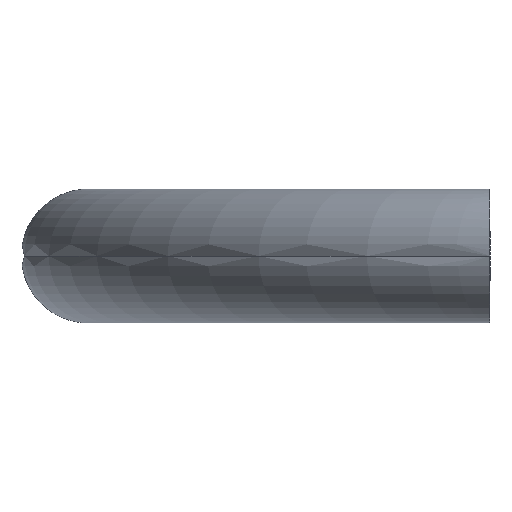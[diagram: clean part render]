
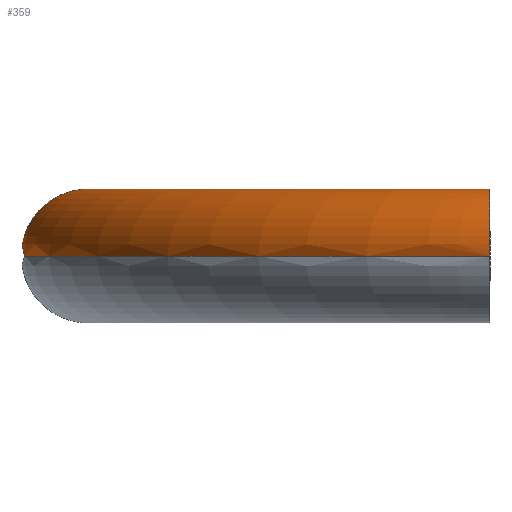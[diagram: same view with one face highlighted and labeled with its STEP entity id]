
A CAD part, left-side view. The second image highlights one B-rep face of the part: STEP entity #359.
In plain terms, the highlighted toroidal (fillet/blend) face has major radius 57 mm and minor radius 5 mm.
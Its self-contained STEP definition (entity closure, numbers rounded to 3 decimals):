
#5 = CARTESIAN_POINT ( 'NONE',  ( -47.765, 27., 4.533 ) ) ;
#10 = CARTESIAN_POINT ( 'NONE',  ( 0., 0., 0. ) ) ;
#33 = CARTESIAN_POINT ( 'NONE',  ( 52.858, 27., 4.422 ) ) ;
#36 = CARTESIAN_POINT ( 'NONE',  ( 49.433, 27., 4.993 ) ) ;
#37 = CARTESIAN_POINT ( 'NONE',  ( 45.102, 27., 2.336 ) ) ;
#41 = CARTESIAN_POINT ( 'NONE',  ( -50.51, 27., 5.002 ) ) ;
#44 = CARTESIAN_POINT ( 'NONE',  ( 46.805, 27., 4.077 ) ) ;
#51 = CARTESIAN_POINT ( 'NONE',  ( -54.981, 27., 2.635 ) ) ;
#58 = ORIENTED_EDGE ( 'NONE', *, *, #533, .F. ) ;
#59 = DIRECTION ( 'NONE',  ( 0., 0., -1. ) ) ;
#66 = CARTESIAN_POINT ( 'NONE',  ( 55.61, 27., 1.381 ) ) ;
#70 = CARTESIAN_POINT ( 'NONE',  ( 55.179, 27., 2.343 ) ) ;
#78 = CARTESIAN_POINT ( 'NONE',  ( -45.303, 27., 2.621 ) ) ;
#79 = CARTESIAN_POINT ( 'NONE',  ( -44.441, 27., 0. ) ) ;
#80 = CARTESIAN_POINT ( 'NONE',  ( 47.414, 27., 4.41 ) ) ;
#82 = CARTESIAN_POINT ( 'NONE',  ( 54.303, 27., 3.438 ) ) ;
#86 = CARTESIAN_POINT ( 'NONE',  ( -54.555, 27., 3.183 ) ) ;
#91 = CARTESIAN_POINT ( 'NONE',  ( -55.49, 27., 1.712 ) ) ;
#92 = DIRECTION ( 'NONE',  ( 0., 0., -1. ) ) ;
#93 = CARTESIAN_POINT ( 'NONE',  ( -55.812, 27., 0. ) ) ;
#116 = CARTESIAN_POINT ( 'NONE',  ( 53.765, 27., 3.886 ) ) ;
#118 = B_SPLINE_CURVE_WITH_KNOTS ( 'NONE', 3,
 ( #240, #281, #205, #162, #419, #322, #289, #411, #165, #78, #199, #536, #160, #452, #460, #328, #5, #491, #496, #242, #414, #41, #201, #374, #367, #538, #119, #283, #86, #454, #51, #220, #142, #91, #462, #432, #390, #93 ),
 .UNSPECIFIED., .F., .F.,
 ( 4, 2, 2, 2, 2, 2, 2, 2, 2, 2, 2, 2, 2, 2, 2, 2, 2, 2, 4 ),
 ( 0.013, 0.014, 0.015, 0.015, 0.016, 0.016, 0.017, 0.019, 0.02, 0.021, 0.022, 0.023, 0.024, 0.026, 0.027, 0.027, 0.028, 0.029, 0.03 ),
 .UNSPECIFIED. ) ;
#119 = CARTESIAN_POINT ( 'NONE',  ( -53.496, 27., 4.11 ) ) ;
#120 = CARTESIAN_POINT ( 'NONE',  ( 54.549, 27., 3.19 ) ) ;
#128 = CARTESIAN_POINT ( 'NONE',  ( 54.989, 27., 2.639 ) ) ;
#129 = DIRECTION ( 'NONE',  ( 0., 0., -1. ) ) ;
#142 = CARTESIAN_POINT ( 'NONE',  ( -55.257, 27., 2.185 ) ) ;
#143 = VERTEX_POINT ( 'NONE', #389 ) ;
#160 = CARTESIAN_POINT ( 'NONE',  ( -45.994, 27., 3.414 ) ) ;
#162 = CARTESIAN_POINT ( 'NONE',  ( -44.611, 27., 1.209 ) ) ;
#165 = CARTESIAN_POINT ( 'NONE',  ( -45.109, 27., 2.328 ) ) ;
#169 = CARTESIAN_POINT ( 'NONE',  ( 44.778, 27., 1.707 ) ) ;
#170 = CARTESIAN_POINT ( 'NONE',  ( 48.747, 27., 4.875 ) ) ;
#178 = VERTEX_POINT ( 'NONE', #200 ) ;
#185 = EDGE_LOOP ( 'NONE', ( #346, #58, #258, #267 ) ) ;
#194 = AXIS2_PLACEMENT_3D ( 'NONE', #323, #129, #461 ) ;
#199 = CARTESIAN_POINT ( 'NONE',  ( -45.409, 27., 2.763 ) ) ;
#200 = CARTESIAN_POINT ( 'NONE',  ( 55.812, 27., 0. ) ) ;
#201 = CARTESIAN_POINT ( 'NONE',  ( -50.858, 27., 4.976 ) ) ;
#205 = CARTESIAN_POINT ( 'NONE',  ( -44.484, 27., 0.699 ) ) ;
#207 = CARTESIAN_POINT ( 'NONE',  ( 44.495, 27., 0.702 ) ) ;
#210 = CARTESIAN_POINT ( 'NONE',  ( 44.654, 27., 1.38 ) ) ;
#218 = AXIS2_PLACEMENT_3D ( 'NONE', #426, #59, #299 ) ;
#220 = CARTESIAN_POINT ( 'NONE',  ( -55.169, 27., 2.34 ) ) ;
#240 = CARTESIAN_POINT ( 'NONE',  ( -44.441, 27., 0. ) ) ;
#242 = CARTESIAN_POINT ( 'NONE',  ( -49.456, 27., 4.967 ) ) ;
#243 = EDGE_CURVE ( 'NONE', #277, #143, #531, .T. ) ;
#244 = CARTESIAN_POINT ( 'NONE',  ( 50.84, 27., 4.978 ) ) ;
#248 = CARTESIAN_POINT ( 'NONE',  ( 51.529, 27., 4.87 ) ) ;
#250 = CARTESIAN_POINT ( 'NONE',  ( 44.441, 27., 0.175 ) ) ;
#258 = ORIENTED_EDGE ( 'NONE', *, *, #243, .T. ) ;
#263 = DIRECTION ( 'NONE',  ( -1., 0., 0. ) ) ;
#267 = ORIENTED_EDGE ( 'NONE', *, *, #503, .F. ) ;
#272 = TOROIDAL_SURFACE ( 'NONE', #218, 57., 5. ) ;
#277 = VERTEX_POINT ( 'NONE', #79 ) ;
#281 = CARTESIAN_POINT ( 'NONE',  ( -44.441, 27., 0.353 ) ) ;
#283 = CARTESIAN_POINT ( 'NONE',  ( -54.31, 27., 3.432 ) ) ;
#288 = AXIS2_PLACEMENT_3D ( 'NONE', #10, #92, #263 ) ;
#289 = CARTESIAN_POINT ( 'NONE',  ( -44.86, 27., 1.867 ) ) ;
#291 = CARTESIAN_POINT ( 'NONE',  ( -55.812, 27., 0. ) ) ;
#299 = DIRECTION ( 'NONE',  ( -1., 0., 0. ) ) ;
#304 = FACE_OUTER_BOUND ( 'NONE', #185, .T. ) ;
#322 = CARTESIAN_POINT ( 'NONE',  ( -44.789, 27., 1.707 ) ) ;
#323 = CARTESIAN_POINT ( 'NONE',  ( 0., 0., 0. ) ) ;
#325 = CIRCLE ( 'NONE', #288, 62. ) ;
#326 = CARTESIAN_POINT ( 'NONE',  ( 50.491, 27., 5.003 ) ) ;
#328 = CARTESIAN_POINT ( 'NONE',  ( -47.444, 27., 4.391 ) ) ;
#331 = CARTESIAN_POINT ( 'NONE',  ( 45.737, 27., 3.161 ) ) ;
#333 = CARTESIAN_POINT ( 'NONE',  ( 44.528, 27., 0.874 ) ) ;
#346 = ORIENTED_EDGE ( 'NONE', *, *, #402, .F. ) ;
#356 = CARTESIAN_POINT ( 'NONE',  ( 55.812, 27., 0.354 ) ) ;
#359 = ADVANCED_FACE ( 'NONE', ( #304 ), #272, .T. ) ;
#367 = CARTESIAN_POINT ( 'NONE',  ( -51.885, 27., 4.784 ) ) ;
#371 = CARTESIAN_POINT ( 'NONE',  ( 45.986, 27., 3.408 ) ) ;
#373 = B_SPLINE_CURVE_WITH_KNOTS ( 'NONE', 3,
 ( #532, #356, #442, #66, #486, #70, #128, #120, #82, #116, #422, #33, #494, #376, #248, #244, #326, #36, #170, #80, #44, #371, #331, #415, #37, #169, #210, #333, #207, #502, #250, #499 ),
 .UNSPECIFIED., .F., .F.,
 ( 4, 2, 2, 2, 2, 2, 2, 2, 2, 2, 2, 2, 2, 2, 2, 4 ),
 ( 0.014, 0.015, 0.016, 0.017, 0.018, 0.019, 0.02, 0.021, 0.022, 0.024, 0.026, 0.027, 0.028, 0.029, 0.03, 0.03 ),
 .UNSPECIFIED. ) ;
#374 = CARTESIAN_POINT ( 'NONE',  ( -51.545, 27., 4.867 ) ) ;
#376 = CARTESIAN_POINT ( 'NONE',  ( 51.871, 27., 4.787 ) ) ;
#389 = CARTESIAN_POINT ( 'NONE',  ( 44.441, 27., 0. ) ) ;
#390 = CARTESIAN_POINT ( 'NONE',  ( -55.812, 27., 0.349 ) ) ;
#402 = EDGE_CURVE ( 'NONE', #514, #178, #325, .T. ) ;
#411 = CARTESIAN_POINT ( 'NONE',  ( -45.02, 27., 2.178 ) ) ;
#414 = CARTESIAN_POINT ( 'NONE',  ( -49.807, 27., 4.998 ) ) ;
#415 = CARTESIAN_POINT ( 'NONE',  ( 45.296, 27., 2.626 ) ) ;
#419 = CARTESIAN_POINT ( 'NONE',  ( -44.664, 27., 1.378 ) ) ;
#422 = CARTESIAN_POINT ( 'NONE',  ( 53.471, 27., 4.085 ) ) ;
#426 = CARTESIAN_POINT ( 'NONE',  ( 0., 0., 0. ) ) ;
#432 = CARTESIAN_POINT ( 'NONE',  ( -55.77, 27., 0.705 ) ) ;
#442 = CARTESIAN_POINT ( 'NONE',  ( 55.771, 27., 0.7 ) ) ;
#452 = CARTESIAN_POINT ( 'NONE',  ( -46.538, 27., 3.858 ) ) ;
#454 = CARTESIAN_POINT ( 'NONE',  ( -54.88, 27., 2.776 ) ) ;
#460 = CARTESIAN_POINT ( 'NONE',  ( -46.832, 27., 4.055 ) ) ;
#461 = DIRECTION ( 'NONE',  ( -1., 0., 0. ) ) ;
#462 = CARTESIAN_POINT ( 'NONE',  ( -55.609, 27., 1.384 ) ) ;
#486 = CARTESIAN_POINT ( 'NONE',  ( 55.488, 27., 1.716 ) ) ;
#491 = CARTESIAN_POINT ( 'NONE',  ( -48.431, 27., 4.763 ) ) ;
#494 = CARTESIAN_POINT ( 'NONE',  ( 52.538, 27., 4.562 ) ) ;
#496 = CARTESIAN_POINT ( 'NONE',  ( -48.769, 27., 4.849 ) ) ;
#499 = CARTESIAN_POINT ( 'NONE',  ( 44.441, 27., 0. ) ) ;
#502 = CARTESIAN_POINT ( 'NONE',  ( 44.452, 27., 0.353 ) ) ;
#503 = EDGE_CURVE ( 'NONE', #178, #143, #373, .T. ) ;
#514 = VERTEX_POINT ( 'NONE', #291 ) ;
#531 = CIRCLE ( 'NONE', #194, 52. ) ;
#532 = CARTESIAN_POINT ( 'NONE',  ( 55.812, 27., 0. ) ) ;
#533 = EDGE_CURVE ( 'NONE', #277, #514, #118, .T. ) ;
#536 = CARTESIAN_POINT ( 'NONE',  ( -45.745, 27., 3.169 ) ) ;
#538 = CARTESIAN_POINT ( 'NONE',  ( -52.886, 27., 4.443 ) ) ;
